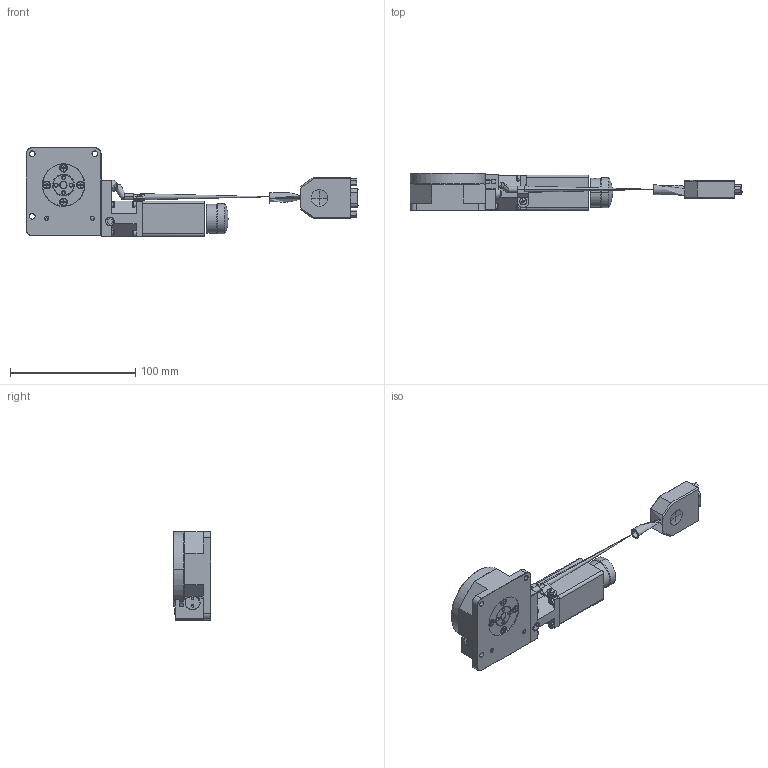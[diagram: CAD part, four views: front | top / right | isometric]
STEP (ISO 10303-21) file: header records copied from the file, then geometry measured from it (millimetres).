
FILE_DESCRIPTION (( 'STEP AP203' ), '1' );
FILE_NAME ('PX-GD60Z.STEP', '2022-09-03T06:37:09', ( '' ), ( '' ), 'SwSTEP 2.0', 'SolidWorks 2020', '' );
FILE_SCHEMA (( 'CONFIG_CONTROL_DESIGN' ));
Products named in the file (1): PX-GD60Z
Bounding box: 265.4 x 30 x 71.1 mm (x, y, z)
Surface area: 46546.5 mm2 (no closed solid volume)
Topology: 0 solids, 37 shells, 855 faces, 2307 edges, 1458 vertices
Faces by surface type: plane 452, cylinder 199, cone 83, bspline 81, torus 25, sphere 15
Entity records: 36312 total; most frequent: CARTESIAN_POINT 19578, ORIENTED_EDGE 4179, EDGE_CURVE 2195, DIRECTION 1884, B_SPLINE_CURVE_WITH_KNOTS 1854, VERTEX_POINT 1432, EDGE_LOOP 962, FACE_OUTER_BOUND 852
